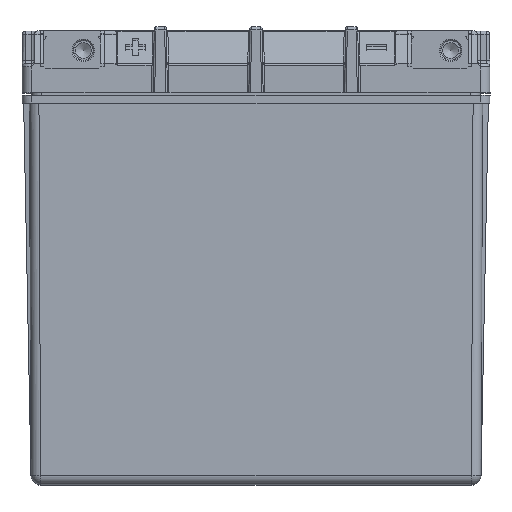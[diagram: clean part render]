
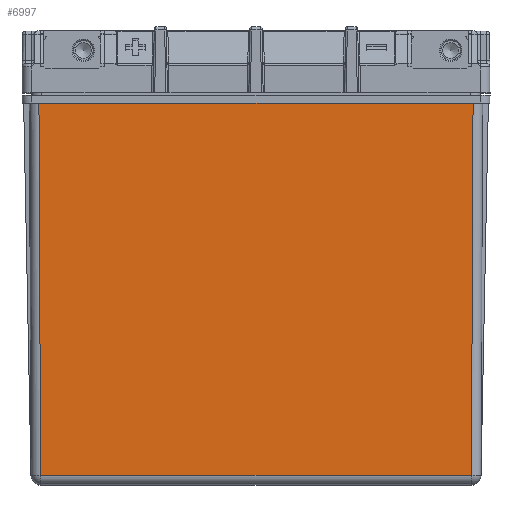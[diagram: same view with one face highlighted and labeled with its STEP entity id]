
A CAD part, top view. The second image highlights one B-rep face of the part: STEP entity #6997.
In plain terms, the highlighted planar face has unit normal (0, -0.004, 1).
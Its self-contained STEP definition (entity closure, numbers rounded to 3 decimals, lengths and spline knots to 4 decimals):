
#631 = LINE ( 'NONE', #16600, #4179 ) ;
#4179 = VECTOR ( 'NONE', #46973, 39.3701 ) ;
#4466 = CARTESIAN_POINT ( 'NONE',  ( -2.6998, 0.0005, 1.5742 ) ) ;
#6997 = ADVANCED_FACE ( 'NONE', ( #8153 ), #42765, .T. ) ;
#8153 = FACE_OUTER_BOUND ( 'NONE', #22694, .T. ) ;
#9775 = LINE ( 'NONE', #4466, #24260 ) ;
#10152 = DIRECTION ( 'NONE',  ( 0.004, -1., -0.004 ) ) ;
#10308 = DIRECTION ( 'NONE',  ( 0.004, 1., 0.004 ) ) ;
#12651 = AXIS2_PLACEMENT_3D ( 'NONE', #71254, #31335, #32085 ) ;
#14295 = LINE ( 'NONE', #31782, #52556 ) ;
#15802 = ORIENTED_EDGE ( 'NONE', *, *, #45240, .T. ) ;
#16600 = CARTESIAN_POINT ( 'NONE',  ( 2.8198, 0.1195, 1.5748 ) ) ;
#18951 = EDGE_CURVE ( 'NONE', #69224, #38874, #9775, .T. ) ;
#22694 = EDGE_LOOP ( 'NONE', ( #70386, #15802, #60832, #23529 ) ) ;
#23529 = ORIENTED_EDGE ( 'NONE', *, *, #18951, .T. ) ;
#24260 = VECTOR ( 'NONE', #10152, 39.3701 ) ;
#25836 = CARTESIAN_POINT ( 'NONE',  ( -2.7003, 0.1195, 1.5748 ) ) ;
#31335 = DIRECTION ( 'NONE',  ( 0., -0.004, 1. ) ) ;
#31782 = CARTESIAN_POINT ( 'NONE',  ( 2.8127, 4.785, 1.5951 ) ) ;
#32085 = DIRECTION ( 'NONE',  ( 0., 1., 0.004 ) ) ;
#33707 = CARTESIAN_POINT ( 'NONE',  ( -2.7207, 4.785, 1.5951 ) ) ;
#36175 = VERTEX_POINT ( 'NONE', #60172 ) ;
#38874 = VERTEX_POINT ( 'NONE', #25836 ) ;
#39747 = DIRECTION ( 'NONE',  ( -1., 0., 0. ) ) ;
#42765 = PLANE ( 'NONE',  #12651 ) ;
#44154 = VECTOR ( 'NONE', #10308, 39.3701 ) ;
#45240 = EDGE_CURVE ( 'NONE', #36175, #68366, #57419, .T. ) ;
#46973 = DIRECTION ( 'NONE',  ( 1., 0., 0. ) ) ;
#52556 = VECTOR ( 'NONE', #39747, 39.3701 ) ;
#57419 = LINE ( 'NONE', #62369, #44154 ) ;
#60172 = CARTESIAN_POINT ( 'NONE',  ( 2.7003, 0.1195, 1.5748 ) ) ;
#60832 = ORIENTED_EDGE ( 'NONE', *, *, #66653, .T. ) ;
#62369 = CARTESIAN_POINT ( 'NONE',  ( 2.7207, 4.7855, 1.5951 ) ) ;
#65461 = CARTESIAN_POINT ( 'NONE',  ( 2.7207, 4.785, 1.5951 ) ) ;
#66653 = EDGE_CURVE ( 'NONE', #68366, #69224, #14295, .T. ) ;
#68366 = VERTEX_POINT ( 'NONE', #65461 ) ;
#69224 = VERTEX_POINT ( 'NONE', #33707 ) ;
#69305 = EDGE_CURVE ( 'NONE', #38874, #36175, #631, .T. ) ;
#70386 = ORIENTED_EDGE ( 'NONE', *, *, #69305, .T. ) ;
#71254 = CARTESIAN_POINT ( 'NONE',  ( 2.8127, 4.785, 1.5951 ) ) ;
